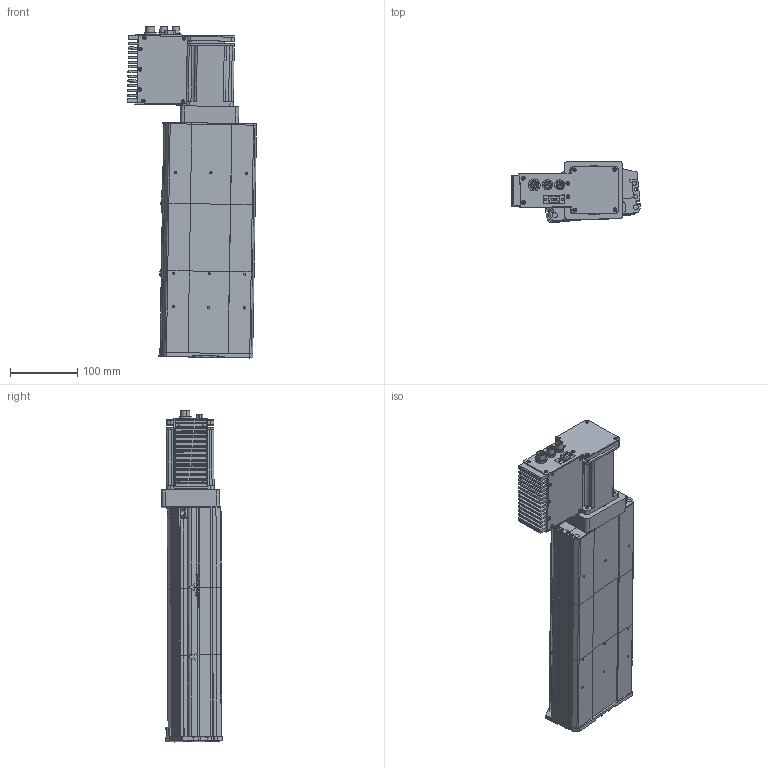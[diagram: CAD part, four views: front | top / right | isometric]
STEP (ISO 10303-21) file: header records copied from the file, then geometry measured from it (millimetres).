
FILE_DESCRIPTION (( 'STEP AP203' ), '1' );
FILE_NAME ('D14 TSH M4 MD L10 S100.STEP', '2012-10-08T07:47:00', ( '' ), ( '' ), 'SwSTEP 2.0', 'SolidWorks 2010', '' );
FILE_SCHEMA (( 'CONFIG_CONTROL_DESIGN' ));
Products named in the file (23): couvercle D14_Default_2; Moteur_2; T犨e contre le moteur_2; Couvercle_2; Tôle latérale_2; couvercle D14 head_Default_2; Vis TF 3 torkx_2; plaque de  bout tail D14_Default_2; D14 TSH M4 MD L10 S100; corp head D14_Default_2; plaque de  bout head D14 MD_Default_2; Plaque racord D10.2_Default_2; corpl tail D14_Default_2; Sub D 9cts_2; T犨e fond_2; Connecteur rond D10 3cts_2; Tôle Arrière_2; Connecteur rond D12 4cts_2; Moteur 70BLDC90A_2; Colonnette_2; Radiateur_2; Pièce26; Pièce29
Assembly tree (49 placements, depth 3):
  D14 TSH M4 MD L10 S100
    plaque de  bout head D14 MD_Default_2
    Pièce29
    corp head D14_Default_2
    couvercle D14 head_Default_2
    Plaque racord D10.2_Default_2
    Pièce26
    corpl tail D14_Default_2
    Moteur_2
      Connecteur rond D12 4cts_2
      Tôle latérale_2  x2
      Vis TF 3 torkx_2  x26
      Tôle Arrière_2
      Radiateur_2
      Couvercle_2
      Moteur 70BLDC90A_2
      T犨e contre le moteur_2
      T犨e fond_2
      Sub D 9cts_2
      Connecteur rond D10 3cts_2  x2
      Colonnette_2
    plaque de  bout tail D14_Default_2
    couvercle D14_Default_2
Bounding box: 191.91 x 91.42 x 493.48 mm (x, y, z)
Volume: 1699287.6 mm3; surface area: 583874.1 mm2
Topology: 70 solids, 70 shells, 2382 faces, 6209 edges, 4094 vertices
Faces by surface type: plane 1272, cylinder 846, cone 134, bspline 130
Entity records: 64373 total; most frequent: CARTESIAN_POINT 20767, ORIENTED_EDGE 8472, DIRECTION 8144, EDGE_CURVE 4236, VERTEX_POINT 2800, LINE 2798, VECTOR 2798, AXIS2_PLACEMENT_3D 2673
